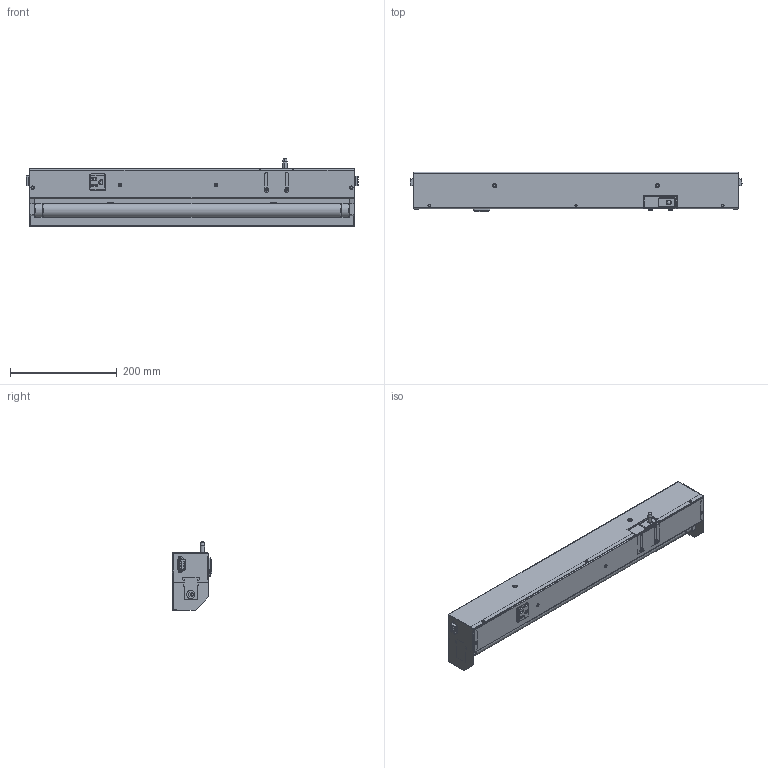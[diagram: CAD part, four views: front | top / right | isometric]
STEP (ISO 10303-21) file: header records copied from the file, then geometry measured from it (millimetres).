
FILE_DESCRIPTION((''),'2;1');
FILE_NAME('SCE-LF24_ASM','2016-10-07T',('dougp'),('SAGINAW CONTROL & ENGINEERING'),'PRO/ENGINEER BY PARAMETRIC TECHNOLOGY CORPORATION, 2012070','PRO/ENGINEER BY PARAMETRIC TECHNOLOGY CORPORATION, 2012070','');
FILE_SCHEMA(('AUTOMOTIVE_DESIGN { 1 0 10303 214 1 1 1 1 }'));
Products named in the file (26): SG60X_24INCH_T8_BASE_1_1; FH-M4-10_1_1_2_3_4_1; SG60X_24INCH_T8_MFG_BASE_ASM_1__ASM; LIGHT_FIXTURE_G13_HOLDER_1_1__4; T8_18W_FLUORESCENT_TUBE_1_1_1; SG60X__DOOR_SWITCH_BRACKET_1__4; PP1_HOUSING_AND_E_TERMINALS_1_4; PP2_A_ACTUATOR_1_1_2_3_4_1; PP1-DB7-2A2_ASM_1_1_2_3_4_ASM_1_ASM; PP1-EB7-XAX_ASM_1_1_2_3_4_ASM_1_ASM; LUG_STRAIGHT_6_3_AWG16_1_1_2__4; POPNUT_UNF_10-32_CLOSED_STEEL_5; SG60X__DOOR_SWITCH_ASM_1_1_2__4_ASM; SCREW_DIN_7985-M4X12_Z_PL_1_1_4; NEMA_5-15_QUICK_CONNECT_1_1_1; SG60X_24INCH_T8_BASE_ASM_1_ASM__ASM; SG60X_24INCH_T8_COVER_1_1_1; POPNUT_UNF_10-32_CLOSED_STEEL_1; SG60X_24INCH_T8_MFG_COVER_ASM_2_ASM; 721603019042_1_1_2_3_1; CONNECTOR_ASSY_ASM_1_1_2_3_ASM__ASM; SG60X_24INCH_T8_COVER_ASM_1_1_A_ASM; 3X6_AL_A2_PULLED_1_1_2_3_4_1; SG60X_24INCH_T8_COMPLETE_ASM_1__ASM; SG60X_24INCH_T8_COMPLETE_ASM_AS_ASM; SCE-LF24_ASM
Assembly tree (37 placements, depth 8):
  SCE-LF24_ASM
    SG60X_24INCH_T8_COMPLETE_ASM_AS_ASM
      SG60X_24INCH_T8_COMPLETE_ASM_1__ASM
        SG60X_24INCH_T8_BASE_ASM_1_ASM__ASM
          SG60X_24INCH_T8_MFG_BASE_ASM_1__ASM
            SG60X_24INCH_T8_BASE_1_1
            FH-M4-10_1_1_2_3_4_1  x3
          LIGHT_FIXTURE_G13_HOLDER_1_1__4  x2
          T8_18W_FLUORESCENT_TUBE_1_1_1
          SG60X__DOOR_SWITCH_ASM_1_1_2__4_ASM
            SG60X__DOOR_SWITCH_BRACKET_1__4
            PP1-EB7-XAX_ASM_1_1_2_3_4_ASM_1_ASM
              PP1-DB7-2A2_ASM_1_1_2_3_4_ASM_1_ASM
                PP1_HOUSING_AND_E_TERMINALS_1_4
                PP2_A_ACTUATOR_1_1_2_3_4_1
            LUG_STRAIGHT_6_3_AWG16_1_1_2__4  x2
            POPNUT_UNF_10-32_CLOSED_STEEL_5  x2
          SCREW_DIN_7985-M4X12_Z_PL_1_1_4  x2
          NEMA_5-15_QUICK_CONNECT_1_1_1
        SG60X_24INCH_T8_COVER_ASM_1_1_A_ASM
          SG60X_24INCH_T8_MFG_COVER_ASM_2_ASM
            SG60X_24INCH_T8_COVER_1_1_1
            POPNUT_UNF_10-32_CLOSED_STEEL_1  x2
          CONNECTOR_ASSY_ASM_1_1_2_3_ASM__ASM  x2
            721603019042_1_1_2_3_1
        3X6_AL_A2_PULLED_1_1_2_3_4_1  x5
Bounding box: 622.5 x 74.01 x 128.5 mm (x, y, z)
Volume: 543443.1 mm3; surface area: 512543.2 mm2
Topology: 27 solids, 35 shells, 1952 faces, 5077 edges, 3219 vertices
Faces by surface type: plane 1222, cylinder 496, torus 107, cone 76, bspline 26, sphere 25
Entity records: 42242 total; most frequent: CARTESIAN_POINT 8544, DIRECTION 6850, ORIENTED_EDGE 6718, EDGE_CURVE 3359, VECTOR 2344, LINE 2344, AXIS2_PLACEMENT_3D 2253, VERTEX_POINT 2151
